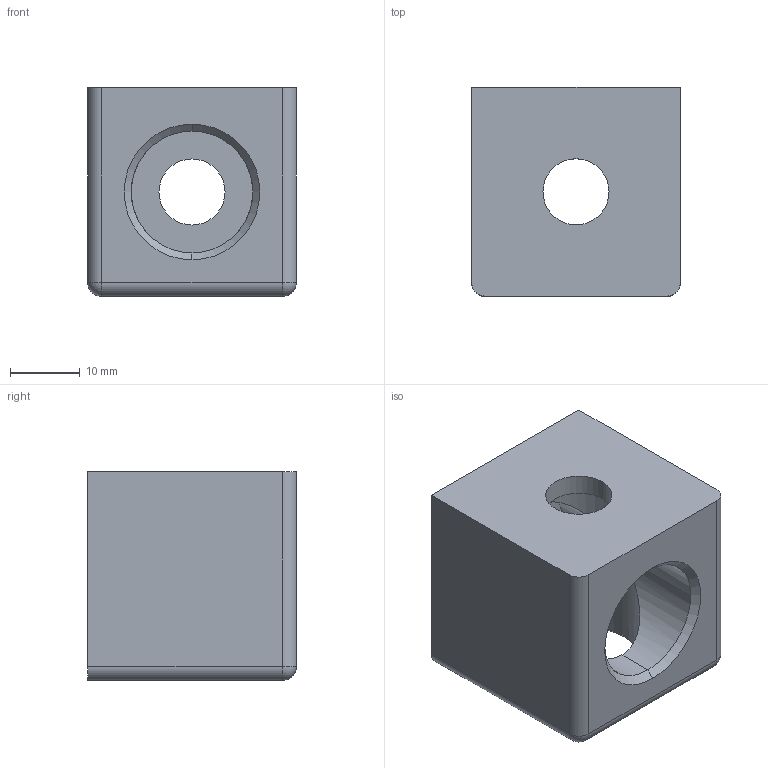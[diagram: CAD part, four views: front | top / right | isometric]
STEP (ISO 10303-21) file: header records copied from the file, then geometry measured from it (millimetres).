
FILE_DESCRIPTION (( 'STEP AP203' ), '1' );
FILE_NAME ('2068.STEP', '2016-09-15T19:04:50', ( '' ), ( '' ), 'SwSTEP 2.0', 'SolidWorks 2014', '' );
FILE_SCHEMA (( 'CONFIG_CONTROL_DESIGN' ));
Length unit declared in the file: millimetre
Products named in the file (1): 2068
Bounding box: 30 x 30 x 30 mm (x, y, z)
Volume: 16975.9 mm3; surface area: 6844.2 mm2
Topology: 1 solids, 1 shells, 31 faces, 73 edges, 42 vertices
Faces by surface type: cylinder 17, plane 8, cone 4, sphere 2
Entity records: 956 total; most frequent: CARTESIAN_POINT 169, DIRECTION 157, ORIENTED_EDGE 142, EDGE_CURVE 71, AXIS2_PLACEMENT_3D 62, VERTEX_POINT 42, EDGE_LOOP 37, VECTOR 33
